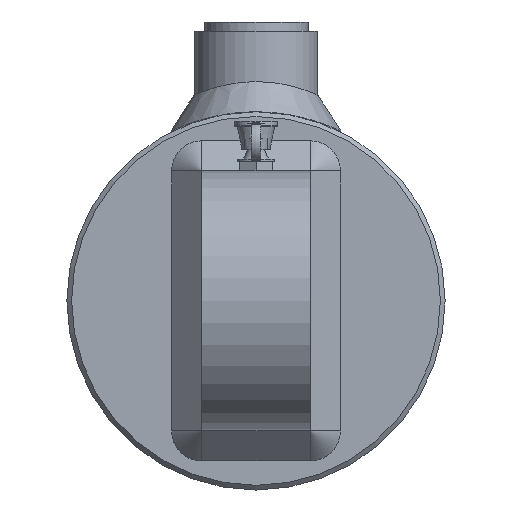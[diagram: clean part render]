
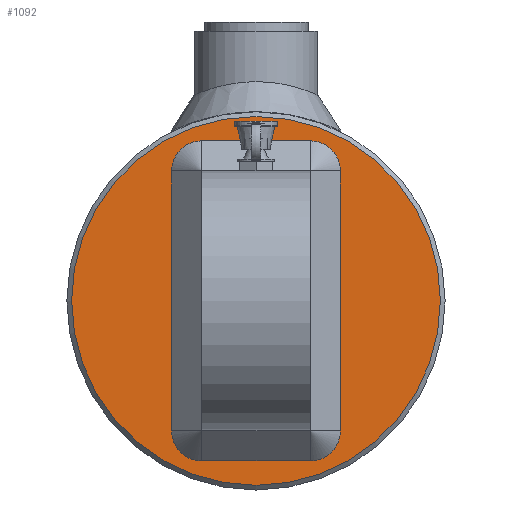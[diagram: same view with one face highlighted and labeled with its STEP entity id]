
A CAD part, left-side view. The second image highlights one B-rep face of the part: STEP entity #1092.
In plain terms, the highlighted planar face has unit normal (-1, 0, 0).
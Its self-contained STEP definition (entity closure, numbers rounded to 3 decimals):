
#1092 = ADVANCED_FACE( '', ( #2019 ), #2020, .T. );
#2019 = FACE_OUTER_BOUND( '', #3791, .T. );
#2020 = PLANE( '', #3792 );
#3791 = EDGE_LOOP( '', ( #8176 ) );
#3792 = AXIS2_PLACEMENT_3D( '', #8177, #8178, #8179 );
#8176 = ORIENTED_EDGE( '', *, *, #10031, .T. );
#8177 = CARTESIAN_POINT( '', ( -12., 0., 0. ) );
#8178 = DIRECTION( '', ( -1., 0., 0. ) );
#8179 = DIRECTION( '', ( 0., -1., 0. ) );
#10031 = EDGE_CURVE( '', #11091, #11091, #11092, .T. );
#11091 = VERTEX_POINT( '', #12747 );
#11092 = CIRCLE( '', #12748, 39. );
#12747 = CARTESIAN_POINT( '', ( -12., -39., 0. ) );
#12748 = AXIS2_PLACEMENT_3D( '', #15054, #15055, #15056 );
#15054 = CARTESIAN_POINT( '', ( -12., 0., 0. ) );
#15055 = DIRECTION( '', ( -1., 0., 0. ) );
#15056 = DIRECTION( '', ( 0., -1., 0. ) );
